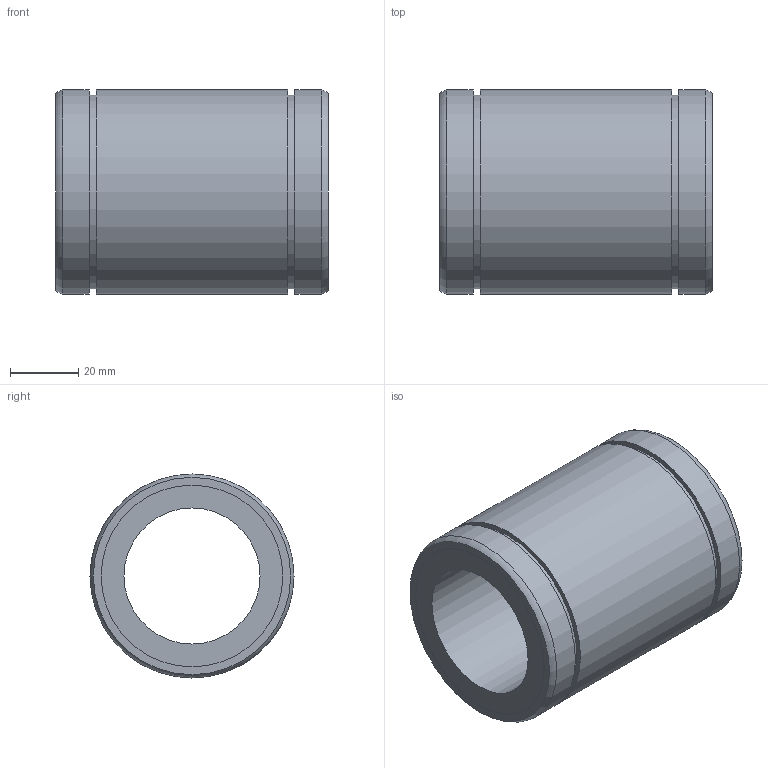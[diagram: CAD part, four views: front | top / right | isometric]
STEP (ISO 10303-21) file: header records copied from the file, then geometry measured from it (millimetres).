
FILE_DESCRIPTION((''),'2;1');
FILE_NAME('D:\製品 (図面)\カタログ用3D\リニアベアリング関連\STEP形式\L\L40.stp','2010-06-02T17:33:57',('Tsuchiya'),(''),'Autodesk Inventor 10','Autodesk Inventor 10','');
FILE_SCHEMA(('AUTOMOTIVE_DESIGN { 1 0 10303 214 1 1 1 1 }'));
Length unit declared in the file: millimetre
Products named in the file (1): L40
Bounding box: 80 x 60 x 60 mm (x, y, z)
Volume: 124005.7 mm3; surface area: 29058.2 mm2
Topology: 1 solids, 1 shells, 18 faces, 28 edges, 18 vertices
Faces by surface type: cylinder 8, plane 8, torus 2
Full cylindrical faces by diameter (mm): 40 x1, 53.4 x2, 57 x2, 60 x3
Entity records: 391 total; most frequent: DIRECTION 74, CARTESIAN_POINT 55, AXIS2_PLACEMENT_3D 37, ORIENTED_EDGE 36, EDGE_LOOP 36, VERTEX_POINT 18, CIRCLE 18, EDGE_CURVE 18
